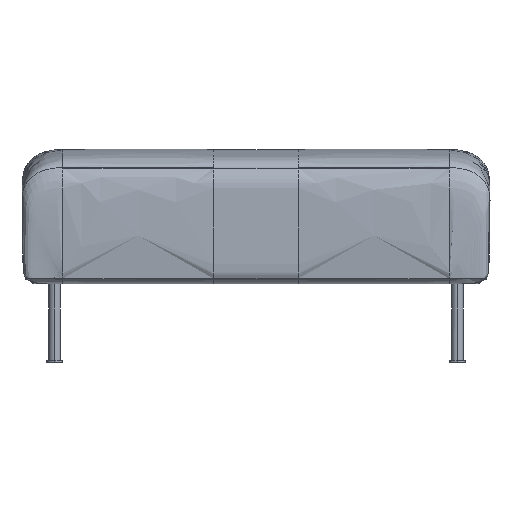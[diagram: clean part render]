
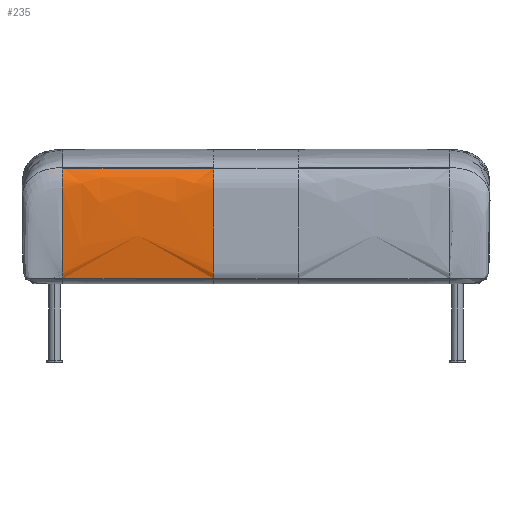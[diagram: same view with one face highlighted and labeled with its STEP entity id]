
A CAD part, front view. The second image highlights one B-rep face of the part: STEP entity #235.
In plain terms, the highlighted free-form (B-spline) face has degree [2, 1] with [8, 2] control points.
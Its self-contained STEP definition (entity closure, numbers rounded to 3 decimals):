
#235=ADVANCED_FACE('',(#344),#1427,.T.);
#344=FACE_OUTER_BOUND('',#453,.T.);
#453=EDGE_LOOP('',(#795,#796,#797,#798,#799));
#795=ORIENTED_EDGE('',*,*,#1090,.T.);
#796=ORIENTED_EDGE('',*,*,#1079,.F.);
#797=ORIENTED_EDGE('',*,*,#1089,.T.);
#798=ORIENTED_EDGE('',*,*,#1087,.F.);
#799=ORIENTED_EDGE('',*,*,#1088,.F.);
#1079=EDGE_CURVE('',#1342,#1344,#1621,.T.);
#1087=EDGE_CURVE('',#1345,#1347,#1628,.T.);
#1088=EDGE_CURVE('',#1333,#1345,#1629,.T.);
#1089=EDGE_CURVE('',#1342,#1347,#1216,.T.);
#1090=EDGE_CURVE('',#1333,#1344,#1630,.T.);
#1216=(
BOUNDED_CURVE()
B_SPLINE_CURVE(2,(#18806,#18807,#18808,#18809,#18810,#18811,#18812,#18813,
#18814,#18815,#18816),.UNSPECIFIED.,.F.,.F.)
B_SPLINE_CURVE_WITH_KNOTS((3,2,2,2,2,3),(1.439,3.988,
5.92,13.975,17.988,19.347),
 .UNSPECIFIED.)
CURVE()
GEOMETRIC_REPRESENTATION_ITEM()
RATIONAL_B_SPLINE_CURVE((1.,1.,1.,1.,1.,1.,0.995,0.993,
0.989,0.988,1.))
REPRESENTATION_ITEM('')
);
#1333=VERTEX_POINT('',#16854);
#1342=VERTEX_POINT('',#16863);
#1344=VERTEX_POINT('',#16865);
#1345=VERTEX_POINT('',#16866);
#1347=VERTEX_POINT('',#16868);
#1427=(
BOUNDED_SURFACE()
B_SPLINE_SURFACE(2,1,((#11879,#11880),(#11881,#11882),(#11883,#11884),(#11885,
#11886),(#11887,#11888),(#11889,#11890),(#11891,#11892),(#11893,#11894)),
 .UNSPECIFIED.,.F.,.F.,.F.)
B_SPLINE_SURFACE_WITH_KNOTS((3,1,1,2,1,3),(2,2),(1.439,3.988,
5.92,13.975,17.988,19.347),(0.,
70.484),.UNSPECIFIED.)
GEOMETRIC_REPRESENTATION_ITEM()
RATIONAL_B_SPLINE_SURFACE(((1.,1.),(1.,1.),(1.,1.),(1.,1.),(0.995,
0.995),(0.993,0.993),(0.988,
0.988),(1.,1.)))
REPRESENTATION_ITEM('')
SURFACE()
);
#1621=B_SPLINE_CURVE_WITH_KNOTS('',3,(#18767,#18768,#18769,#18770),
 .UNSPECIFIED.,.F.,.F.,(4,4),(27.51,27.538),
 .UNSPECIFIED.);
#1628=B_SPLINE_CURVE_WITH_KNOTS('',1,(#18788,#18789),.UNSPECIFIED.,.F.,
 .F.,(2,2),(42.128,70.459),.UNSPECIFIED.);
#1629=B_SPLINE_CURVE_WITH_KNOTS('',3,(#18790,#18791,#18792,#18793,#18794,
#18795,#18796,#18797,#18798,#18799,#18800,#18801,#18802,#18803,#18804,#18805),
 .UNSPECIFIED.,.F.,.F.,(4,3,3,3,3,4),(0.,4.464,7.866,
17.875,20.437,21.596),.UNSPECIFIED.);
#1630=B_SPLINE_CURVE_WITH_KNOTS('',1,(#18817,#18818),.UNSPECIFIED.,.F.,
 .F.,(2,2),(-28.381,-0.026),.UNSPECIFIED.);
#11879=CARTESIAN_POINT('',(-363.316,-512.633,360.013));
#11880=CARTESIAN_POINT('',(341.52,-512.633,360.013));
#11881=CARTESIAN_POINT('',(-363.318,-529.38,345.015));
#11882=CARTESIAN_POINT('',(341.518,-529.38,345.015));
#11883=CARTESIAN_POINT('',(-363.327,-532.881,304.342));
#11884=CARTESIAN_POINT('',(341.51,-532.881,304.342));
#11885=CARTESIAN_POINT('',(-362.826,-532.872,219.349));
#11886=CARTESIAN_POINT('',(342.011,-532.872,219.349));
#11887=CARTESIAN_POINT('',(-362.824,-531.385,187.847));
#11888=CARTESIAN_POINT('',(342.012,-531.385,187.847));
#11889=CARTESIAN_POINT('',(-362.823,-530.639,172.04));
#11890=CARTESIAN_POINT('',(342.013,-530.639,172.04));
#11891=CARTESIAN_POINT('',(-362.819,-529.135,159.));
#11892=CARTESIAN_POINT('',(342.018,-529.135,159.));
#11893=CARTESIAN_POINT('',(-362.81,-525.39,151.614));
#11894=CARTESIAN_POINT('',(342.027,-525.39,151.614));
#16854=CARTESIAN_POINT('',(-79.503,-512.621,360.011));
#16863=CARTESIAN_POINT('',(-363.316,-512.612,360.009));
#16865=CARTESIAN_POINT('',(-363.055,-512.633,360.013));
#16866=CARTESIAN_POINT('',(-79.503,-525.39,151.614));
#16868=CARTESIAN_POINT('',(-362.81,-525.39,151.614));
#18767=CARTESIAN_POINT('',(-363.316,-512.612,360.009));
#18768=CARTESIAN_POINT('',(-363.229,-512.619,360.01));
#18769=CARTESIAN_POINT('',(-363.142,-512.626,360.012));
#18770=CARTESIAN_POINT('',(-363.055,-512.633,360.013));
#18788=CARTESIAN_POINT('',(-79.503,-525.39,151.614));
#18789=CARTESIAN_POINT('',(-362.81,-525.39,151.614));
#18790=CARTESIAN_POINT('',(-79.503,-512.621,360.011));
#18791=CARTESIAN_POINT('',(-79.503,-524.008,349.826));
#18792=CARTESIAN_POINT('',(-79.503,-530.069,337.006));
#18793=CARTESIAN_POINT('',(-79.503,-531.372,321.871));
#18794=CARTESIAN_POINT('',(-79.503,-532.343,310.587));
#18795=CARTESIAN_POINT('',(-79.503,-532.88,299.234));
#18796=CARTESIAN_POINT('',(-79.503,-532.879,287.907));
#18797=CARTESIAN_POINT('',(-79.503,-532.876,260.007));
#18798=CARTESIAN_POINT('',(-79.503,-532.701,215.727));
#18799=CARTESIAN_POINT('',(-79.503,-531.385,187.847));
#18800=CARTESIAN_POINT('',(-79.503,-531.01,179.898));
#18801=CARTESIAN_POINT('',(-79.503,-530.429,170.219));
#18802=CARTESIAN_POINT('',(-79.503,-529.517,162.31));
#18803=CARTESIAN_POINT('',(-79.503,-529.168,159.286));
#18804=CARTESIAN_POINT('',(-79.503,-526.73,154.256));
#18805=CARTESIAN_POINT('',(-79.503,-525.39,151.614));
#18806=CARTESIAN_POINT('',(-363.316,-512.612,360.009));
#18807=CARTESIAN_POINT('',(-363.318,-529.36,345.011));
#18808=CARTESIAN_POINT('',(-363.323,-531.355,321.867));
#18809=CARTESIAN_POINT('',(-363.327,-532.865,304.339));
#18810=CARTESIAN_POINT('',(-363.23,-532.865,287.904));
#18811=CARTESIAN_POINT('',(-362.826,-532.865,219.347));
#18812=CARTESIAN_POINT('',(-362.824,-531.382,187.846));
#18813=CARTESIAN_POINT('',(-362.823,-530.637,172.039));
#18814=CARTESIAN_POINT('',(-362.82,-529.516,162.31));
#18815=CARTESIAN_POINT('',(-362.819,-529.134,159.));
#18816=CARTESIAN_POINT('',(-362.81,-525.39,151.614));
#18817=CARTESIAN_POINT('',(-79.503,-512.621,360.011));
#18818=CARTESIAN_POINT('',(-363.055,-512.633,360.013));
